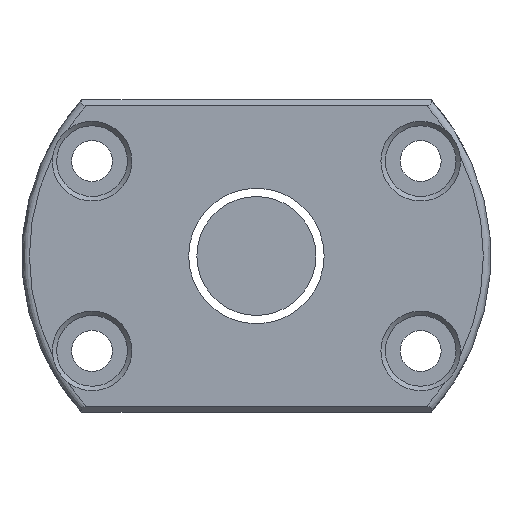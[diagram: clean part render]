
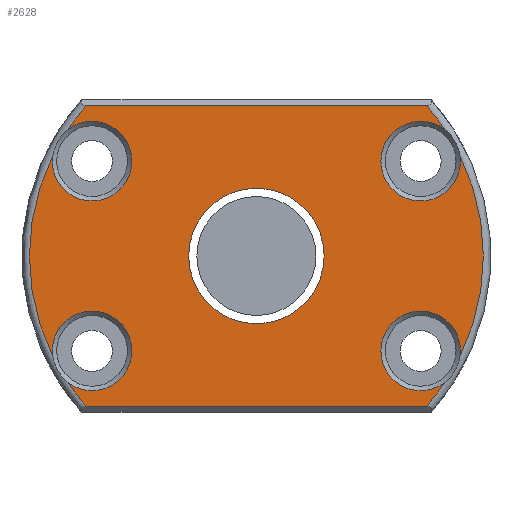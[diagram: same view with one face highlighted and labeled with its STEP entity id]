
A CAD part, left-side view. The second image highlights one B-rep face of the part: STEP entity #2628.
In plain terms, the highlighted planar face has unit normal (-1, 0, 0).
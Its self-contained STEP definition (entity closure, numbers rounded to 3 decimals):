
#4 = AXIS2_PLACEMENT_3D ( 'NONE', #619, #1410, #2120 ) ;
#39 = ORIENTED_EDGE ( 'NONE', *, *, #2555, .T. ) ;
#45 = DIRECTION ( 'NONE',  ( 0., 0., 1. ) ) ;
#62 = AXIS2_PLACEMENT_3D ( 'NONE', #220, #2930, #919 ) ;
#128 = DIRECTION ( 'NONE',  ( 0., 0., 1. ) ) ;
#157 = CARTESIAN_POINT ( 'NONE',  ( -56., 0., 0. ) ) ;
#178 = FACE_BOUND ( 'NONE', #1148, .T. ) ;
#220 = CARTESIAN_POINT ( 'NONE',  ( -56., -22.084, 12.75 ) ) ;
#230 = VERTEX_POINT ( 'NONE', #2739 ) ;
#234 = CARTESIAN_POINT ( 'NONE',  ( -56., 22.852, -20.2 ) ) ;
#294 = ORIENTED_EDGE ( 'NONE', *, *, #1276, .T. ) ;
#311 = VECTOR ( 'NONE', #670, 1000. ) ;
#345 = CARTESIAN_POINT ( 'NONE',  ( -56., 27.392, 13.413 ) ) ;
#357 = EDGE_CURVE ( 'NONE', #3121, #818, #2925, .T. ) ;
#383 = DIRECTION ( 'NONE',  ( -1., 0., 0. ) ) ;
#443 = CARTESIAN_POINT ( 'NONE',  ( -56., 25.312, 17.016 ) ) ;
#449 = CARTESIAN_POINT ( 'NONE',  ( -56., -25.312, 17.016 ) ) ;
#466 = CARTESIAN_POINT ( 'NONE',  ( -56., -22.852, -20.2 ) ) ;
#516 = EDGE_CURVE ( 'NONE', #2787, #2414, #1255, .T. ) ;
#522 = CIRCLE ( 'NONE', #62, 5.35 ) ;
#524 = AXIS2_PLACEMENT_3D ( 'NONE', #2429, #1166, #2444 ) ;
#526 = CARTESIAN_POINT ( 'NONE',  ( -56., 22.119, 20.2 ) ) ;
#619 = CARTESIAN_POINT ( 'NONE',  ( -56., 0., 0. ) ) ;
#645 = DIRECTION ( 'NONE',  ( 1., 0., 0. ) ) ;
#670 = DIRECTION ( 'NONE',  ( 0., -1., 0. ) ) ;
#683 = AXIS2_PLACEMENT_3D ( 'NONE', #1758, #3014, #2292 ) ;
#743 = ORIENTED_EDGE ( 'NONE', *, *, #357, .T. ) ;
#782 = VERTEX_POINT ( 'NONE', #449 ) ;
#796 = CIRCLE ( 'NONE', #2641, 30.5 ) ;
#818 = VERTEX_POINT ( 'NONE', #466 ) ;
#862 = VERTEX_POINT ( 'NONE', #1465 ) ;
#877 = CARTESIAN_POINT ( 'NONE',  ( -56., -22.852, 20.2 ) ) ;
#898 = AXIS2_PLACEMENT_3D ( 'NONE', #1062, #1278, #1988 ) ;
#919 = DIRECTION ( 'NONE',  ( 0., 0., 1. ) ) ;
#990 = AXIS2_PLACEMENT_3D ( 'NONE', #1365, #645, #1138 ) ;
#1012 = ORIENTED_EDGE ( 'NONE', *, *, #3171, .T. ) ;
#1043 = VERTEX_POINT ( 'NONE', #1709 ) ;
#1055 = EDGE_CURVE ( 'NONE', #1520, #3121, #2248, .T. ) ;
#1062 = CARTESIAN_POINT ( 'NONE',  ( -56., 0., 0. ) ) ;
#1105 = CIRCLE ( 'NONE', #2250, 30.5 ) ;
#1122 = EDGE_CURVE ( 'NONE', #230, #1520, #1837, .T. ) ;
#1138 = DIRECTION ( 'NONE',  ( 0., 0., 1. ) ) ;
#1148 = EDGE_LOOP ( 'NONE', ( #294 ) ) ;
#1166 = DIRECTION ( 'NONE',  ( 1., 0., 0. ) ) ;
#1172 = DIRECTION ( 'NONE',  ( -1., 0., 0. ) ) ;
#1211 = CIRCLE ( 'NONE', #898, 30.5 ) ;
#1221 = CIRCLE ( 'NONE', #1272, 30.5 ) ;
#1248 = DIRECTION ( 'NONE',  ( -1., 0., 0. ) ) ;
#1255 = CIRCLE ( 'NONE', #4, 30.5 ) ;
#1272 = AXIS2_PLACEMENT_3D ( 'NONE', #157, #383, #2679 ) ;
#1276 = EDGE_CURVE ( 'NONE', #2728, #2728, #1573, .T. ) ;
#1278 = DIRECTION ( 'NONE',  ( -1., 0., 0. ) ) ;
#1281 = DIRECTION ( 'NONE',  ( 0., 1., 0. ) ) ;
#1365 = CARTESIAN_POINT ( 'NONE',  ( -56., 22.084, -12.75 ) ) ;
#1410 = DIRECTION ( 'NONE',  ( -1., 0., 0. ) ) ;
#1465 = CARTESIAN_POINT ( 'NONE',  ( -56., -27.392, 13.413 ) ) ;
#1519 = CIRCLE ( 'NONE', #2197, 5.35 ) ;
#1520 = VERTEX_POINT ( 'NONE', #1691 ) ;
#1530 = AXIS2_PLACEMENT_3D ( 'NONE', #3180, #1172, #2198 ) ;
#1534 = VECTOR ( 'NONE', #1281, 1000. ) ;
#1560 = EDGE_CURVE ( 'NONE', #2414, #2055, #2837, .T. ) ;
#1573 = CIRCLE ( 'NONE', #683, 9.1 ) ;
#1575 = ORIENTED_EDGE ( 'NONE', *, *, #1055, .T. ) ;
#1660 = ORIENTED_EDGE ( 'NONE', *, *, #2256, .T. ) ;
#1668 = PLANE ( 'NONE',  #1530 ) ;
#1691 = CARTESIAN_POINT ( 'NONE',  ( -56., 25.312, -17.016 ) ) ;
#1697 = FACE_OUTER_BOUND ( 'NONE', #2369, .T. ) ;
#1708 = LINE ( 'NONE', #526, #1534 ) ;
#1709 = CARTESIAN_POINT ( 'NONE',  ( -56., -25.312, -17.016 ) ) ;
#1758 = CARTESIAN_POINT ( 'NONE',  ( -56., 0., 0. ) ) ;
#1806 = CARTESIAN_POINT ( 'NONE',  ( -56., -22.084, -12.75 ) ) ;
#1837 = CIRCLE ( 'NONE', #990, 5.35 ) ;
#1838 = ORIENTED_EDGE ( 'NONE', *, *, #1843, .T. ) ;
#1843 = EDGE_CURVE ( 'NONE', #782, #2327, #1211, .T. ) ;
#1964 = DIRECTION ( 'NONE',  ( 0., 0., 1. ) ) ;
#1976 = CARTESIAN_POINT ( 'NONE',  ( -56., 0., -9.1 ) ) ;
#1988 = DIRECTION ( 'NONE',  ( 0., 0., 1. ) ) ;
#2011 = CARTESIAN_POINT ( 'NONE',  ( -56., 22.852, 20.2 ) ) ;
#2021 = ORIENTED_EDGE ( 'NONE', *, *, #1122, .T. ) ;
#2055 = VERTEX_POINT ( 'NONE', #345 ) ;
#2120 = DIRECTION ( 'NONE',  ( 0., 0., 1. ) ) ;
#2197 = AXIS2_PLACEMENT_3D ( 'NONE', #1806, #3083, #45 ) ;
#2198 = DIRECTION ( 'NONE',  ( 0., 0., 1. ) ) ;
#2215 = EDGE_CURVE ( 'NONE', #1043, #3245, #1519, .T. ) ;
#2225 = DIRECTION ( 'NONE',  ( -1., 0., 0. ) ) ;
#2238 = ORIENTED_EDGE ( 'NONE', *, *, #2215, .T. ) ;
#2242 = CARTESIAN_POINT ( 'NONE',  ( -56., 0., 0. ) ) ;
#2248 = CIRCLE ( 'NONE', #3153, 30.5 ) ;
#2250 = AXIS2_PLACEMENT_3D ( 'NONE', #2900, #2649, #128 ) ;
#2256 = EDGE_CURVE ( 'NONE', #2055, #230, #1105, .T. ) ;
#2289 = ORIENTED_EDGE ( 'NONE', *, *, #1560, .T. ) ;
#2292 = DIRECTION ( 'NONE',  ( 0., 0., -1. ) ) ;
#2321 = ORIENTED_EDGE ( 'NONE', *, *, #516, .T. ) ;
#2327 = VERTEX_POINT ( 'NONE', #877 ) ;
#2369 = EDGE_LOOP ( 'NONE', ( #1838, #2508, #2321, #2289, #1660, #2021, #1575, #743, #1012, #2238, #3080, #39 ) ) ;
#2414 = VERTEX_POINT ( 'NONE', #443 ) ;
#2429 = CARTESIAN_POINT ( 'NONE',  ( -56., 22.084, 12.75 ) ) ;
#2444 = DIRECTION ( 'NONE',  ( 0., 0., 1. ) ) ;
#2447 = CARTESIAN_POINT ( 'NONE',  ( -56., 0., 0. ) ) ;
#2508 = ORIENTED_EDGE ( 'NONE', *, *, #3170, .T. ) ;
#2510 = DIRECTION ( 'NONE',  ( 0., 0., 1. ) ) ;
#2529 = CARTESIAN_POINT ( 'NONE',  ( -56., -27.392, -13.413 ) ) ;
#2555 = EDGE_CURVE ( 'NONE', #862, #782, #522, .T. ) ;
#2628 = ADVANCED_FACE ( 'NONE', ( #1697, #178 ), #1668, .T. ) ;
#2641 = AXIS2_PLACEMENT_3D ( 'NONE', #2242, #1248, #2510 ) ;
#2649 = DIRECTION ( 'NONE',  ( -1., 0., 0. ) ) ;
#2679 = DIRECTION ( 'NONE',  ( 0., 0., 1. ) ) ;
#2728 = VERTEX_POINT ( 'NONE', #1976 ) ;
#2739 = CARTESIAN_POINT ( 'NONE',  ( -56., 27.392, -13.413 ) ) ;
#2787 = VERTEX_POINT ( 'NONE', #2011 ) ;
#2837 = CIRCLE ( 'NONE', #524, 5.35 ) ;
#2900 = CARTESIAN_POINT ( 'NONE',  ( -56., 0., 0. ) ) ;
#2925 = LINE ( 'NONE', #3156, #311 ) ;
#2930 = DIRECTION ( 'NONE',  ( 1., 0., 0. ) ) ;
#2993 = EDGE_CURVE ( 'NONE', #3245, #862, #1221, .T. ) ;
#3014 = DIRECTION ( 'NONE',  ( 1., 0., 0. ) ) ;
#3080 = ORIENTED_EDGE ( 'NONE', *, *, #2993, .T. ) ;
#3083 = DIRECTION ( 'NONE',  ( 1., 0., 0. ) ) ;
#3121 = VERTEX_POINT ( 'NONE', #234 ) ;
#3153 = AXIS2_PLACEMENT_3D ( 'NONE', #2447, #2225, #1964 ) ;
#3156 = CARTESIAN_POINT ( 'NONE',  ( -56., -22.119, -20.2 ) ) ;
#3170 = EDGE_CURVE ( 'NONE', #2327, #2787, #1708, .T. ) ;
#3171 = EDGE_CURVE ( 'NONE', #818, #1043, #796, .T. ) ;
#3180 = CARTESIAN_POINT ( 'NONE',  ( -56., 31.5, 0. ) ) ;
#3245 = VERTEX_POINT ( 'NONE', #2529 ) ;
